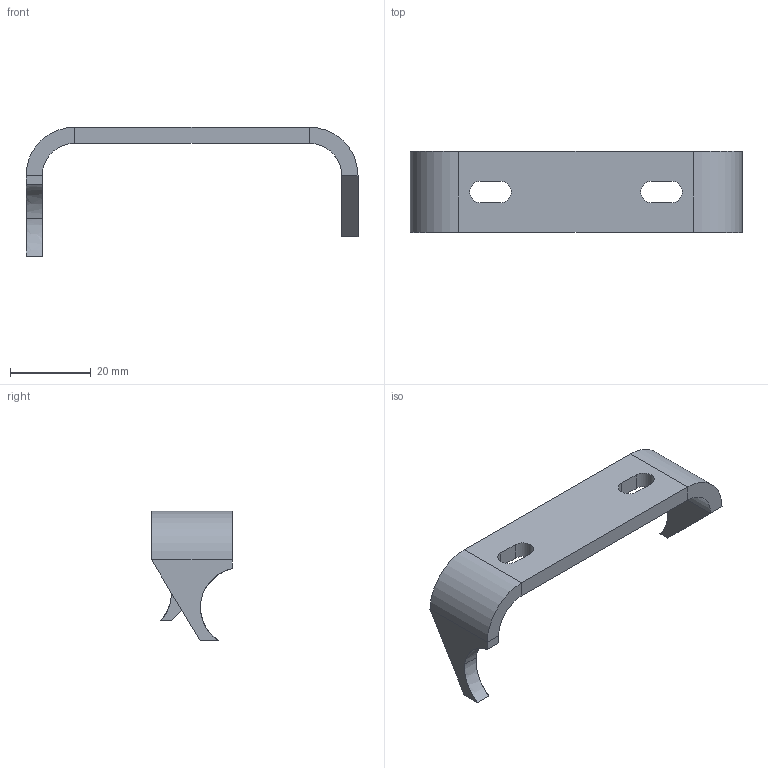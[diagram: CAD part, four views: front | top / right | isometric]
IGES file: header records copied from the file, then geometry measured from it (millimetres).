
Start section: START RECORD GO HERE.
Global section: file name: SU_15009 (x chape).igs; native system: IBM CATIA IGES - CATIA Version 5 Release 19 ; preprocessor: CATIA Version 5 Release 19 ; author: Martin Kawczynski; organization: DESKTOP-UDLM1FC; date: 20200104.172242; units: millimetre
Bounding box: 82 x 20 x 32 mm (x, y, z)
Surface area: 5304.2 mm2 (no closed solid volume)
Topology: 0 solids, 0 shells, 40 faces, 189 edges, 192 vertices
Faces by surface type: plane 23, revolution 12, extrusion 4, bspline 1
